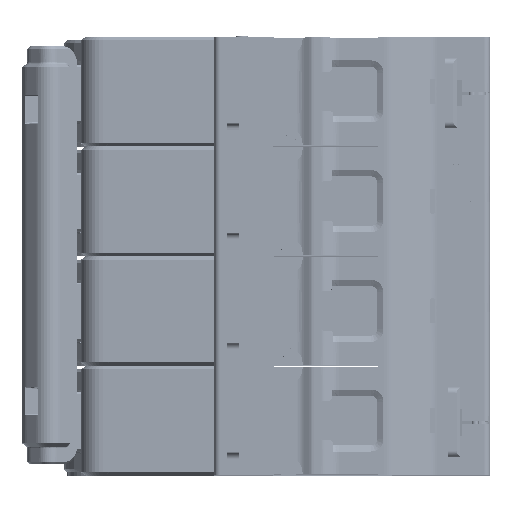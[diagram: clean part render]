
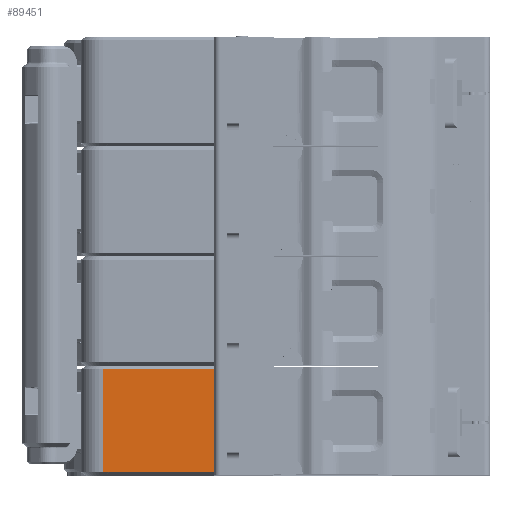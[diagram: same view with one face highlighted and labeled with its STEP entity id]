
A CAD part, top view. The second image highlights one B-rep face of the part: STEP entity #89451.
In plain terms, the highlighted planar face has unit normal (0, 0, 1).
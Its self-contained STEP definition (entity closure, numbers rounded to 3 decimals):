
#3757=DIRECTION('',(0.,-1.,0.));
#3758=VECTOR('',#3757,16.6);
#3759=CARTESIAN_POINT('',(-11.,17.15,30.));
#3760=LINE('',#3759,#3758);
#3790=DIRECTION('',(1.,0.,0.));
#3791=VECTOR('',#3790,0.05);
#3792=CARTESIAN_POINT('',(-10.05,3.85,30.));
#3793=LINE('',#3792,#3791);
#3798=DIRECTION('',(0.,-1.,0.));
#3799=VECTOR('',#3798,3.3);
#3800=CARTESIAN_POINT('',(-10.,3.85,30.));
#3801=LINE('',#3800,#3799);
#3810=DIRECTION('',(0.,-1.,0.));
#3811=VECTOR('',#3810,3.3);
#3812=CARTESIAN_POINT('',(-10.05,3.85,30.));
#3813=LINE('',#3812,#3811);
#3814=DIRECTION('',(-1.,0.,0.));
#3815=VECTOR('',#3814,0.95);
#3816=CARTESIAN_POINT('',(-10.05,0.55,
30.));
#3817=LINE('',#3816,#3815);
#3818=DIRECTION('',(1.,0.,0.));
#3819=VECTOR('',#3818,18.);
#3820=CARTESIAN_POINT('',(-11.,17.15,30.));
#3821=LINE('',#3820,#3819);
#3822=DIRECTION('',(0.,-1.,0.));
#3823=VECTOR('',#3822,16.6);
#3824=CARTESIAN_POINT('',(7.,17.15,30.));
#3825=LINE('',#3824,#3823);
#3826=DIRECTION('',(1.,0.,0.));
#3827=VECTOR('',#3826,17.);
#3828=CARTESIAN_POINT('',(-10.,0.55,30.));
#3829=LINE('',#3828,#3827);
#66746=CARTESIAN_POINT('',(7.,0.55,30.));
#66747=VERTEX_POINT('',#66746);
#67659=CARTESIAN_POINT('',(-10.,0.55,30.));
#67660=VERTEX_POINT('',#67659);
#70640=CARTESIAN_POINT('',(-10.05,3.85,30.));
#70642=VERTEX_POINT('',#70640);
#70643=CARTESIAN_POINT('',(-10.05,0.55,
30.));
#70644=VERTEX_POINT('',#70643);
#70653=CARTESIAN_POINT('',(-11.,0.55,
30.));
#70654=VERTEX_POINT('',#70653);
#70655=CARTESIAN_POINT('',(-11.,17.15,
30.));
#70656=VERTEX_POINT('',#70655);
#70657=CARTESIAN_POINT('',(7.,17.15,30.));
#70658=VERTEX_POINT('',#70657);
#71231=CARTESIAN_POINT('',(-10.,3.85,30.));
#71233=VERTEX_POINT('',#71231);
#89435=CARTESIAN_POINT('',(-14.,0.,30.));
#89436=DIRECTION('',(0.,0.,1.));
#89437=DIRECTION('',(1.,0.,0.));
#89438=AXIS2_PLACEMENT_3D('',#89435,#89436,#89437);
#89439=PLANE('',#89438);
#89440=ORIENTED_EDGE('',*,*,#89424,.F.);
#89441=ORIENTED_EDGE('',*,*,#89413,.F.);
#89442=ORIENTED_EDGE('',*,*,#89398,.T.);
#89443=ORIENTED_EDGE('',*,*,#89381,.T.);
#89444=ORIENTED_EDGE('',*,*,#89351,.F.);
#89445=ORIENTED_EDGE('',*,*,#89291,.T.);
#89446=ORIENTED_EDGE('',*,*,#88964,.T.);
#89448=ORIENTED_EDGE('',*,*,#89447,.F.);
#89449=EDGE_LOOP('',(#89440,#89441,#89442,#89443,#89444,#89445,#89446,#89448));
#89450=FACE_OUTER_BOUND('',#89449,.F.);
#89451=ADVANCED_FACE('',(#89450),#89439,.T.);
#88964=EDGE_CURVE('',#70658,#66747,#3825,.T.);
#89291=EDGE_CURVE('',#70656,#70658,#3821,.T.);
#89351=EDGE_CURVE('',#70656,#70654,#3760,.T.);
#89381=EDGE_CURVE('',#70644,#70654,#3817,.T.);
#89398=EDGE_CURVE('',#70642,#70644,#3813,.T.);
#89413=EDGE_CURVE('',#70642,#71233,#3793,.T.);
#89424=EDGE_CURVE('',#71233,#67660,#3801,.T.);
#89447=EDGE_CURVE('',#67660,#66747,#3829,.T.);
